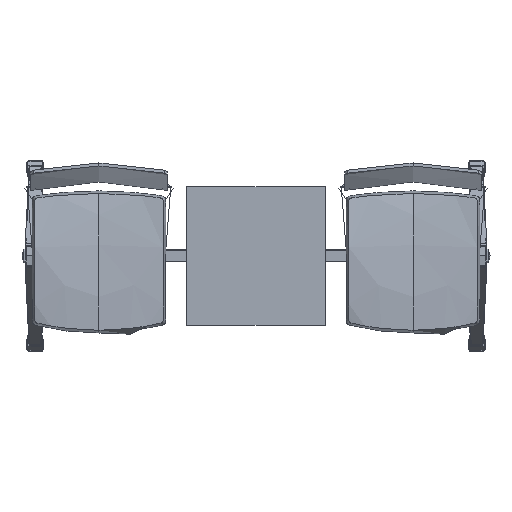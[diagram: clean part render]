
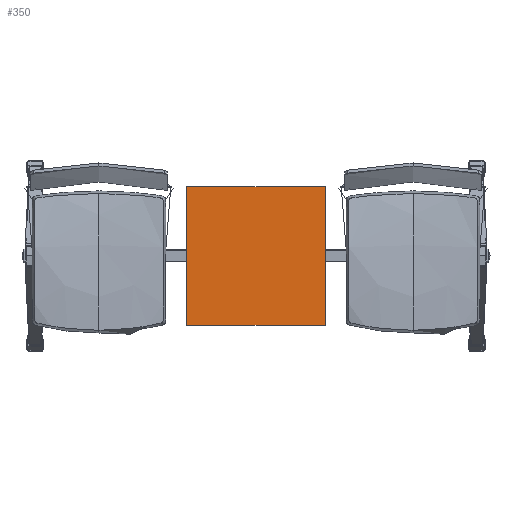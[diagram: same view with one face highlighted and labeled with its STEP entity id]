
A CAD part, top view. The second image highlights one B-rep face of the part: STEP entity #350.
In plain terms, the highlighted planar face has unit normal (0, 0, 1).
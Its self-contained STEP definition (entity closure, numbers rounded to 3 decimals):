
#350=ADVANCED_FACE('',(#796),#5676,.T.);
#796=FACE_OUTER_BOUND('',#1242,.T.);
#1242=EDGE_LOOP('',(#2365,#2366,#2367,#2368));
#2365=ORIENTED_EDGE('',*,*,#3934,.T.);
#2366=ORIENTED_EDGE('',*,*,#3936,.T.);
#2367=ORIENTED_EDGE('',*,*,#3938,.T.);
#2368=ORIENTED_EDGE('',*,*,#3940,.T.);
#3934=EDGE_CURVE('',#4991,#4992,#6340,.T.);
#3936=EDGE_CURVE('',#4992,#4993,#6342,.T.);
#3938=EDGE_CURVE('',#4993,#4994,#6344,.T.);
#3940=EDGE_CURVE('',#4994,#4991,#6346,.T.);
#4991=VERTEX_POINT('',#9899);
#4992=VERTEX_POINT('',#9900);
#4993=VERTEX_POINT('',#9901);
#4994=VERTEX_POINT('',#9902);
#5676=PLANE('',#6854);
#6340=B_SPLINE_CURVE_WITH_KNOTS('',1,(#9913,#9914),.UNSPECIFIED.,.F.,.F.,
(2,2),(0.,450.),.UNSPECIFIED.);
#6342=B_SPLINE_CURVE_WITH_KNOTS('',1,(#9917,#9918),.UNSPECIFIED.,.F.,.F.,
(2,2),(450.,900.),.UNSPECIFIED.);
#6344=B_SPLINE_CURVE_WITH_KNOTS('',1,(#9921,#9922),.UNSPECIFIED.,.F.,.F.,
(2,2),(900.,1350.),.UNSPECIFIED.);
#6346=B_SPLINE_CURVE_WITH_KNOTS('',1,(#9925,#9926),.UNSPECIFIED.,.F.,.F.,
(2,2),(1350.,1800.),.UNSPECIFIED.);
#6854=AXIS2_PLACEMENT_3D('',#9894,#7074,$);
#7074=DIRECTION('',(0.,0.,1.));
#9894=CARTESIAN_POINT('',(-225.,-225.,408.));
#9899=CARTESIAN_POINT('',(-225.,-225.,408.));
#9900=CARTESIAN_POINT('',(225.,-225.,408.));
#9901=CARTESIAN_POINT('',(225.,225.,408.));
#9902=CARTESIAN_POINT('',(-225.,225.,408.));
#9913=CARTESIAN_POINT('',(-225.,-225.,408.));
#9914=CARTESIAN_POINT('',(225.,-225.,408.));
#9917=CARTESIAN_POINT('',(225.,-225.,408.));
#9918=CARTESIAN_POINT('',(225.,225.,408.));
#9921=CARTESIAN_POINT('',(225.,225.,408.));
#9922=CARTESIAN_POINT('',(-225.,225.,408.));
#9925=CARTESIAN_POINT('',(-225.,225.,408.));
#9926=CARTESIAN_POINT('',(-225.,-225.,408.));
